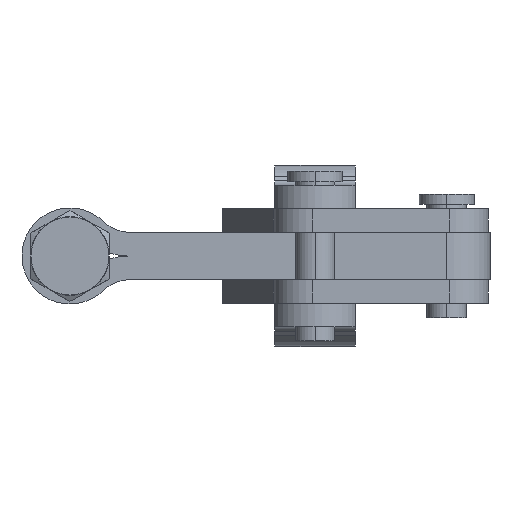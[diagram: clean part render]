
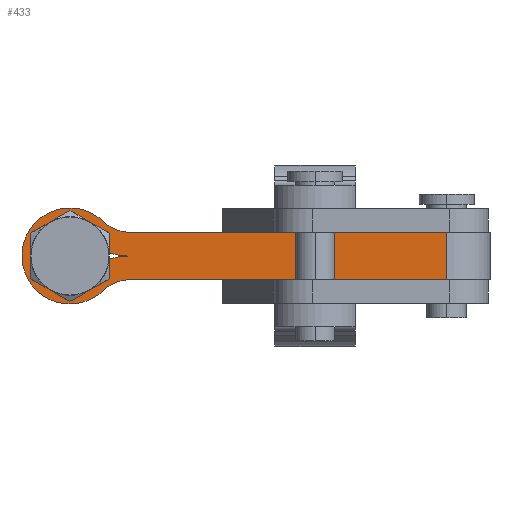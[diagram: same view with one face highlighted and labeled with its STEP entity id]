
A CAD part, front view. The second image highlights one B-rep face of the part: STEP entity #433.
In plain terms, the highlighted planar face has unit normal (0, -1, 0).
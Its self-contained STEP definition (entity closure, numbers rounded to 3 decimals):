
#433 = ADVANCED_FACE( '', ( #866, #867 ), #868, .T. );
#866 = FACE_OUTER_BOUND( '', #1503, .T. );
#867 = FACE_BOUND( '', #1504, .T. );
#868 = PLANE( '', #1505 );
#1503 = EDGE_LOOP( '', ( #2811, #2812, #2813, #2814, #2815, #2816, #2817 ) );
#1504 = EDGE_LOOP( '', ( #2818, #2819, #2820, #2821, #2822, #2823, #2824, #2825 ) );
#1505 = AXIS2_PLACEMENT_3D( '', #2826, #2827, #2828 );
#2811 = ORIENTED_EDGE( '', *, *, #4558, .T. );
#2812 = ORIENTED_EDGE( '', *, *, #4559, .F. );
#2813 = ORIENTED_EDGE( '', *, *, #4560, .T. );
#2814 = ORIENTED_EDGE( '', *, *, #4561, .T. );
#2815 = ORIENTED_EDGE( '', *, *, #4399, .T. );
#2816 = ORIENTED_EDGE( '', *, *, #4562, .T. );
#2817 = ORIENTED_EDGE( '', *, *, #4563, .T. );
#2818 = ORIENTED_EDGE( '', *, *, #4564, .T. );
#2819 = ORIENTED_EDGE( '', *, *, #4565, .T. );
#2820 = ORIENTED_EDGE( '', *, *, #4554, .T. );
#2821 = ORIENTED_EDGE( '', *, *, #4556, .T. );
#2822 = ORIENTED_EDGE( '', *, *, #4557, .T. );
#2823 = ORIENTED_EDGE( '', *, *, #4550, .T. );
#2824 = ORIENTED_EDGE( '', *, *, #4551, .T. );
#2825 = ORIENTED_EDGE( '', *, *, #4553, .T. );
#2826 = CARTESIAN_POINT( '', ( -31.9, 33.7, 6.1 ) );
#2827 = DIRECTION( '', ( 0., -1., 0. ) );
#2828 = DIRECTION( '', ( -1., 0., 0. ) );
#4399 = EDGE_CURVE( '', #5258, #5255, #5259, .T. );
#4550 = EDGE_CURVE( '', #5481, #5460, #5515, .T. );
#4551 = EDGE_CURVE( '', #5460, #5506, #5516, .T. );
#4553 = EDGE_CURVE( '', #5506, #5517, #5519, .T. );
#4554 = EDGE_CURVE( '', #5520, #5489, #5521, .T. );
#4556 = EDGE_CURVE( '', #5489, #5472, #5523, .T. );
#4557 = EDGE_CURVE( '', #5472, #5481, #5524, .T. );
#4558 = EDGE_CURVE( '', #5525, #5526, #5527, .T. );
#4559 = EDGE_CURVE( '', #5528, #5526, #5529, .T. );
#4560 = EDGE_CURVE( '', #5528, #5530, #5531, .T. );
#4561 = EDGE_CURVE( '', #5530, #5258, #5532, .T. );
#4562 = EDGE_CURVE( '', #5255, #5533, #5534, .T. );
#4563 = EDGE_CURVE( '', #5533, #5525, #5535, .T. );
#4564 = EDGE_CURVE( '', #5517, #5536, #5537, .T. );
#4565 = EDGE_CURVE( '', #5536, #5520, #5538, .T. );
#5255 = VERTEX_POINT( '', #6572 );
#5258 = VERTEX_POINT( '', #6576 );
#5259 = CIRCLE( '', #6577, 6.1 );
#5460 = VERTEX_POINT( '', #7040 );
#5472 = VERTEX_POINT( '', #7090 );
#5481 = VERTEX_POINT( '', #7136 );
#5489 = VERTEX_POINT( '', #7189 );
#5506 = VERTEX_POINT( '', #7280 );
#5515 = CIRCLE( '', #7307, 5. );
#5516 = CIRCLE( '', #7308, 5. );
#5517 = VERTEX_POINT( '', #7309 );
#5519 = CIRCLE( '', #7311, 5. );
#5520 = VERTEX_POINT( '', #7312 );
#5521 = CIRCLE( '', #7313, 5. );
#5523 = CIRCLE( '', #7315, 5. );
#5524 = CIRCLE( '', #7316, 5. );
#5525 = VERTEX_POINT( '', #7317 );
#5526 = VERTEX_POINT( '', #7318 );
#5527 = LINE( '', #7319, #7320 );
#5528 = VERTEX_POINT( '', #7321 );
#5529 = LINE( '', #7322, #7323 );
#5530 = VERTEX_POINT( '', #7324 );
#5531 = LINE( '', #7325, #7326 );
#5532 = CIRCLE( '', #7327, 5. );
#5533 = VERTEX_POINT( '', #7328 );
#5534 = CIRCLE( '', #7329, 6.1 );
#5535 = CIRCLE( '', #7330, 5. );
#5536 = VERTEX_POINT( '', #7331 );
#5537 = CIRCLE( '', #7332, 7. );
#5538 = CIRCLE( '', #7333, 7. );
#6572 = CARTESIAN_POINT( '', ( -30.029, 33.7, 4.396 ) );
#6576 = CARTESIAN_POINT( '', ( -21.571, 33.7, 4.396 ) );
#6577 = AXIS2_PLACEMENT_3D( '', #8633, #8634, #8635 );
#7040 = CARTESIAN_POINT( '', ( -28.3, 33.7, 4.33 ) );
#7090 = CARTESIAN_POINT( '', ( -28.3, 33.7, -4.33 ) );
#7136 = CARTESIAN_POINT( '', ( -30.8, 33.7, 0. ) );
#7189 = CARTESIAN_POINT( '', ( -23.3, 33.7, -4.33 ) );
#7280 = CARTESIAN_POINT( '', ( -23.3, 33.7, 4.33 ) );
#7307 = AXIS2_PLACEMENT_3D( '', #8858, #8859, #8860 );
#7308 = AXIS2_PLACEMENT_3D( '', #8861, #8862, #8863 );
#7309 = CARTESIAN_POINT( '', ( -20.815, 33.7, 0.387 ) );
#7311 = AXIS2_PLACEMENT_3D( '', #8867, #8868, #8869 );
#7312 = CARTESIAN_POINT( '', ( -20.815, 33.7, -0.387 ) );
#7313 = AXIS2_PLACEMENT_3D( '', #8870, #8871, #8872 );
#7315 = AXIS2_PLACEMENT_3D( '', #8876, #8877, #8878 );
#7316 = AXIS2_PLACEMENT_3D( '', #8879, #8880, #8881 );
#7317 = CARTESIAN_POINT( '', ( -18.105, 33.7, -3. ) );
#7318 = CARTESIAN_POINT( '', ( 22., 33.7, -3. ) );
#7319 = CARTESIAN_POINT( '', ( -2.2, 33.7, -3. ) );
#7320 = VECTOR( '', #8882, 1. );
#7321 = CARTESIAN_POINT( '', ( 22., 33.7, 3. ) );
#7322 = CARTESIAN_POINT( '', ( 22., 33.7, 6.1 ) );
#7323 = VECTOR( '', #8883, 1. );
#7324 = CARTESIAN_POINT( '', ( -18.105, 33.7, 3. ) );
#7325 = CARTESIAN_POINT( '', ( -25.003, 33.7, 3. ) );
#7326 = VECTOR( '', #8884, 1. );
#7327 = AXIS2_PLACEMENT_3D( '', #8885, #8886, #8887 );
#7328 = CARTESIAN_POINT( '', ( -21.571, 33.7, -4.396 ) );
#7329 = AXIS2_PLACEMENT_3D( '', #8888, #8889, #8890 );
#7330 = AXIS2_PLACEMENT_3D( '', #8891, #8892, #8893 );
#7331 = CARTESIAN_POINT( '', ( -18.519, 33.7, 0. ) );
#7332 = AXIS2_PLACEMENT_3D( '', #8894, #8895, #8896 );
#7333 = AXIS2_PLACEMENT_3D( '', #8897, #8898, #8899 );
#8633 = CARTESIAN_POINT( '', ( -25.8, 33.7, 0. ) );
#8634 = DIRECTION( '', ( 0., -1., 0. ) );
#8635 = DIRECTION( '', ( 0.693, 0., -0.721 ) );
#8858 = CARTESIAN_POINT( '', ( -25.8, 33.7, 0. ) );
#8859 = DIRECTION( '', ( 0., 1., 0. ) );
#8860 = DIRECTION( '', ( 1., 0., 0. ) );
#8861 = CARTESIAN_POINT( '', ( -25.8, 33.7, 0. ) );
#8862 = DIRECTION( '', ( 0., 1., 0. ) );
#8863 = DIRECTION( '', ( 1., 0., 0. ) );
#8867 = CARTESIAN_POINT( '', ( -25.8, 33.7, 0. ) );
#8868 = DIRECTION( '', ( 0., 1., 0. ) );
#8869 = DIRECTION( '', ( 1., 0., 0. ) );
#8870 = CARTESIAN_POINT( '', ( -25.8, 33.7, 0. ) );
#8871 = DIRECTION( '', ( 0., 1., 0. ) );
#8872 = DIRECTION( '', ( 1., 0., 0. ) );
#8876 = CARTESIAN_POINT( '', ( -25.8, 33.7, 0. ) );
#8877 = DIRECTION( '', ( 0., 1., 0. ) );
#8878 = DIRECTION( '', ( 1., 0., 0. ) );
#8879 = CARTESIAN_POINT( '', ( -25.8, 33.7, 0. ) );
#8880 = DIRECTION( '', ( 0., 1., 0. ) );
#8881 = DIRECTION( '', ( 1., 0., 0. ) );
#8882 = DIRECTION( '', ( 1., 0., 0. ) );
#8883 = DIRECTION( '', ( 0., 0., -1. ) );
#8884 = DIRECTION( '', ( -1., 0., 0. ) );
#8885 = CARTESIAN_POINT( '', ( -18.105, 33.7, 8. ) );
#8886 = DIRECTION( '', ( 0., 1., 0. ) );
#8887 = DIRECTION( '', ( -0.693, 0., -0.721 ) );
#8888 = CARTESIAN_POINT( '', ( -25.8, 33.7, 0. ) );
#8889 = DIRECTION( '', ( 0., -1., 0. ) );
#8890 = DIRECTION( '', ( 0.693, 0., -0.721 ) );
#8891 = CARTESIAN_POINT( '', ( -18.105, 33.7, -8. ) );
#8892 = DIRECTION( '', ( 0., 1., 0. ) );
#8893 = DIRECTION( '', ( 0., 0., 1. ) );
#8894 = CARTESIAN_POINT( '', ( -18.519, 33.7, 7. ) );
#8895 = DIRECTION( '', ( 0., -1., 0. ) );
#8896 = DIRECTION( '', ( -0.721, 0., -0.693 ) );
#8897 = CARTESIAN_POINT( '', ( -18.519, 33.7, -7. ) );
#8898 = DIRECTION( '', ( 0., -1., 0. ) );
#8899 = DIRECTION( '', ( 0., 0., 1. ) );
